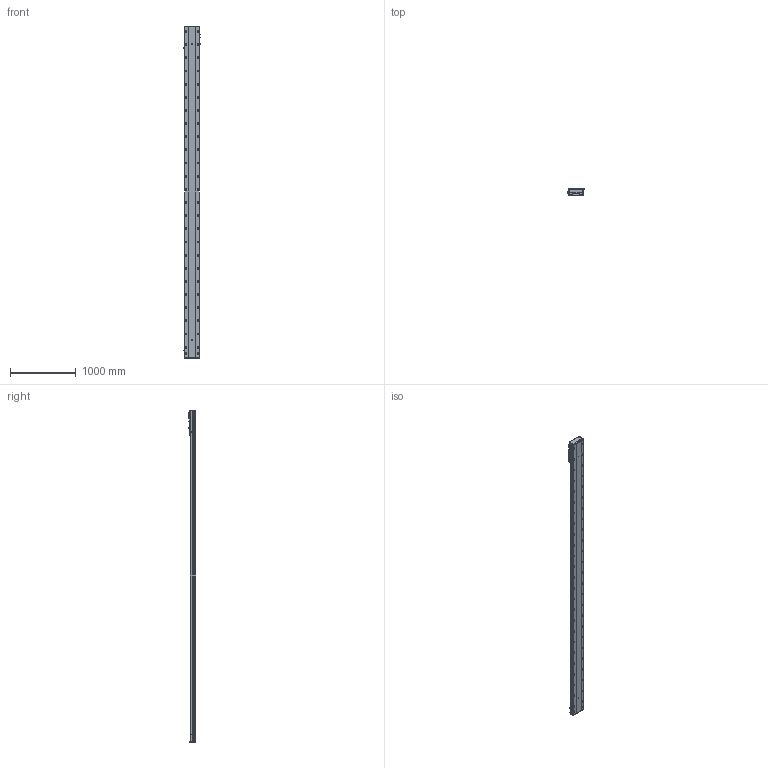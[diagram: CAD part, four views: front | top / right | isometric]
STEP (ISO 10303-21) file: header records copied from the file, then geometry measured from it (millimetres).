
FILE_DESCRIPTION (( 'STEP AP203' ), '1' );
FILE_NAME ('BEH22-A-M2-4600-L1-¦Õ22-PCD100-M6-C3.STEP', '2022-06-21T06:34:42', ( 'CXY' ), ( 'BT' ), 'SwSTEP 2.0', 'SolidWorks 2016', '' );
FILE_SCHEMA (( 'CONFIG_CONTROL_DESIGN' ));
Products named in the file (12): BEH22-07-PCD100-80-M6; BEH22-04-01_L; _G-M6; BTH22-07-DZ; FS-25-6.66-M2-H22K6; FS-01-10（10毫米）; BEH22-04-F; 萇儂階踡輸; BEH22-A-M2-4600-L1-耳22-PCD100-M6-C3; BEH22-B-01-XX-2; PM-T65; FS-02-BTH22
Assembly tree (18 placements, depth 3):
  BEH22-A-M2-4600-L1-耳22-PCD100-M6-C3
    BEH22-B-01-XX-2
    BTH22-07-DZ  x2
    PM-T65  x2
    BEH22-04-01_L
      BEH22-04-F
      萇儂階踡輸
      _G-M6  x3
      FS-02-BTH22
      FS-01-10（10毫米）  x4
      BEH22-07-PCD100-80-M6
      FS-25-6.66-M2-H22K6
Bounding box: 247.7 x 111 x 5048 mm (x, y, z)
Volume: 51561796.1 mm3; surface area: 4970886.3 mm2
Topology: 21 solids, 21 shells, 2868 faces, 8632 edges, 5634 vertices
Faces by surface type: cylinder 1568, plane 1008, cone 233, bspline 37, torus 22
Entity records: 489952 total; most frequent: CARTESIAN_POINT 423087, ORIENTED_EDGE 15084, DIRECTION 12298, EDGE_CURVE 7542, VERTEX_POINT 4994, AXIS2_PLACEMENT_3D 4472, VECTOR 3354, LINE 3354
